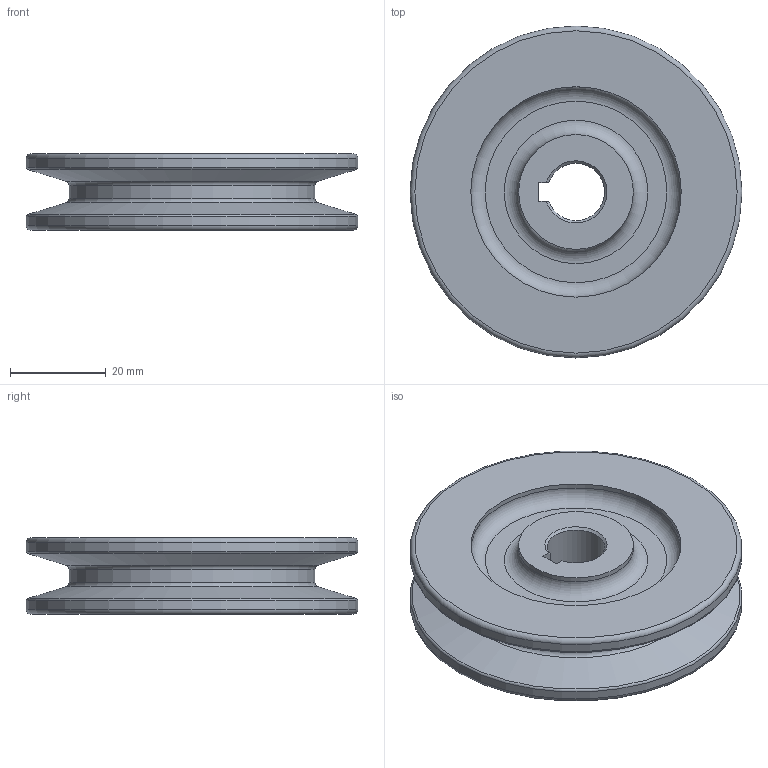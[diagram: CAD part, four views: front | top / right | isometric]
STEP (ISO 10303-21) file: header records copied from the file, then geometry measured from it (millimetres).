
FILE_DESCRIPTION(/* description */ (''),/* implementation_level */ '2;1');
FILE_NAME(/* name */ '',/* time_stamp */ '2025-08-05T11:23:43+09:00',/* author */ ('jhkim'),/* organization */ (''),/* preprocessor_version */ 'ST-DEVELOPER v20.1',/* originating_system */ 'Autodesk Inventor 2026',/* authorisation */ '');
FILE_SCHEMA (('AUTOMOTIVE_DESIGN { 1 0 10303 214 3 1 1 }'));
Length unit declared in the file: millimetre
Products named in the file (1): V-벨트풀리
Bounding box: 69.4 x 69.4 x 16 mm (x, y, z)
Volume: 38776.9 mm3; surface area: 14460.6 mm2
Topology: 1 solids, 1 shells, 31 faces, 75 edges, 50 vertices
Faces by surface type: torus 10, plane 9, cylinder 8, cone 4
Full cylindrical faces by diameter (mm): 24 x2, 44 x2, 51.4 x1, 69.4 x2
Entity records: 984 total; most frequent: DIRECTION 187, CARTESIAN_POINT 165, ORIENTED_EDGE 150, AXIS2_PLACEMENT_3D 84, EDGE_CURVE 75, CIRCLE 52, VERTEX_POINT 50, EDGE_LOOP 37
